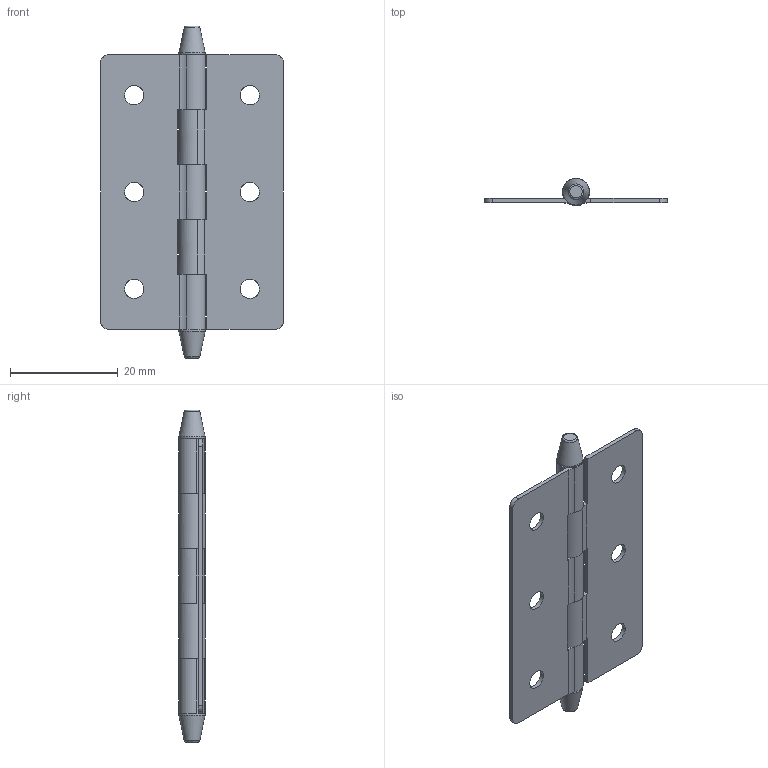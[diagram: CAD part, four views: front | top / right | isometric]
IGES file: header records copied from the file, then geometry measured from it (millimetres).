
Global section: file name: DR_HD5034-08; native system: Autodesk Inventor 2015; preprocessor: unknown; author: user; date: 20170817.103200; units: millimetre
Bounding box: 34 x 5 x 61.7 mm (x, y, z)
Volume: 2257.9 mm3; surface area: 5232.6 mm2
Topology: 3 solids, 3 shells, 69 faces, 199 edges, 138 vertices
Faces by surface type: bspline 69
